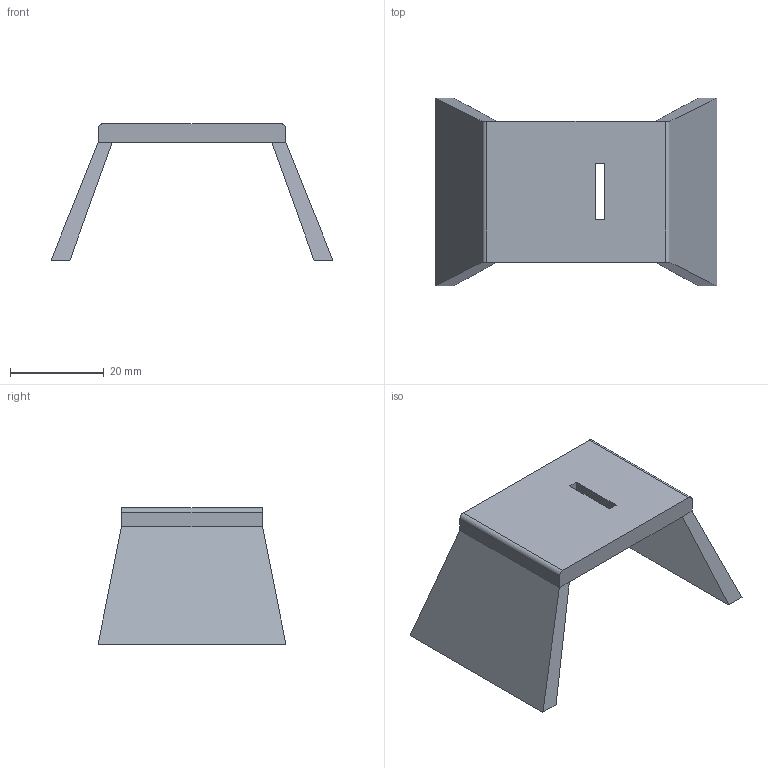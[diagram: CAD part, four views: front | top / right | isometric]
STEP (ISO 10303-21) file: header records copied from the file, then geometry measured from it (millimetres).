
FILE_DESCRIPTION(/* description */ (''),/* implementation_level */ '2;1');
FILE_NAME(/* name */ 'Motor Stand_v6.tmp.step',/* time_stamp */ '2026-11-01T13:10:09+02:00',/* author */ (''),/* organization */ (''),/* preprocessor_version */ 'ST-DEVELOPER v20.2',/* originating_system */ 'Autodesk Translation Framework v15.15.0.0',/* authorisation */ '');
FILE_SCHEMA (('AUTOMOTIVE_DESIGN { 1 0 10303 214 3 1 1 }'));
Length unit declared in the file: millimetre
Products named in the file (1): Motor Stand
Bounding box: 60 x 40 x 29 mm (x, y, z)
Volume: 10857.8 mm3; surface area: 7239.1 mm2
Topology: 1 solids, 1 shells, 22 faces, 52 edges, 32 vertices
Faces by surface type: plane 20, cylinder 2
Entity records: 653 total; most frequent: CARTESIAN_POINT 107, ORIENTED_EDGE 104, DIRECTION 102, EDGE_CURVE 52, LINE 48, VECTOR 48, VERTEX_POINT 32, AXIS2_PLACEMENT_3D 27
